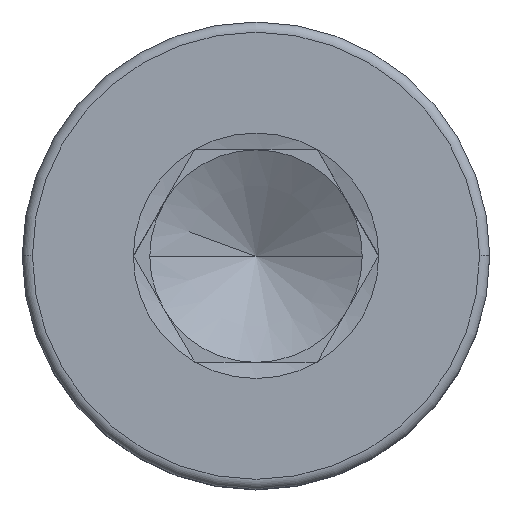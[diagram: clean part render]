
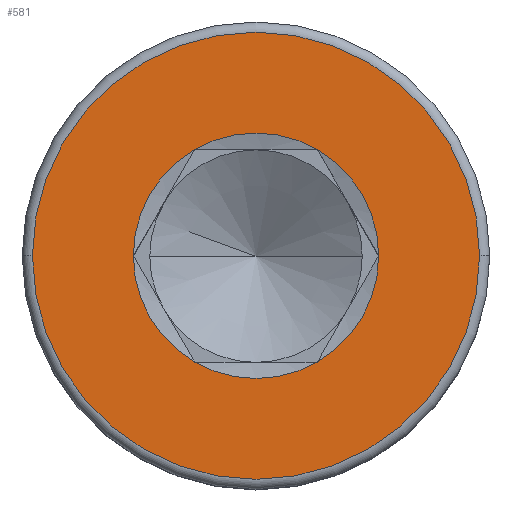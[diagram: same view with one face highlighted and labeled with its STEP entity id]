
A CAD part, top view. The second image highlights one B-rep face of the part: STEP entity #581.
In plain terms, the highlighted planar face has unit normal (0, 0, 1).
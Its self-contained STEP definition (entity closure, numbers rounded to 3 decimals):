
#15 = DIRECTION ( 'NONE',  ( 1., 0., 0. ) ) ;
#37 = CIRCLE ( 'NONE', #104, 1.443 ) ;
#44 = CARTESIAN_POINT ( 'NONE',  ( 1.443, 0., 3. ) ) ;
#51 = CARTESIAN_POINT ( 'NONE',  ( 2.63, 0., 3. ) ) ;
#80 = CARTESIAN_POINT ( 'NONE',  ( 0., 0., 3. ) ) ;
#83 = EDGE_CURVE ( 'NONE', #512, #551, #37, .T. ) ;
#90 = DIRECTION ( 'NONE',  ( 0., 0., 1. ) ) ;
#104 = AXIS2_PLACEMENT_3D ( 'NONE', #80, #346, #928 ) ;
#120 = EDGE_CURVE ( 'NONE', #551, #217, #895, .T. ) ;
#193 = FACE_OUTER_BOUND ( 'NONE', #1737, .T. ) ;
#217 = VERTEX_POINT ( 'NONE', #1849 ) ;
#248 = ORIENTED_EDGE ( 'NONE', *, *, #1256, .T. ) ;
#260 = CARTESIAN_POINT ( 'NONE',  ( 0., 0., 3. ) ) ;
#261 = AXIS2_PLACEMENT_3D ( 'NONE', #1369, #1359, #648 ) ;
#294 = AXIS2_PLACEMENT_3D ( 'NONE', #1447, #587, #15 ) ;
#346 = DIRECTION ( 'NONE',  ( 0., 0., 1. ) ) ;
#413 = AXIS2_PLACEMENT_3D ( 'NONE', #1141, #1714, #950 ) ;
#434 = ORIENTED_EDGE ( 'NONE', *, *, #120, .F. ) ;
#450 = DIRECTION ( 'NONE',  ( 1., 0., 0. ) ) ;
#475 = CIRCLE ( 'NONE', #813, 2.63 ) ;
#496 = VERTEX_POINT ( 'NONE', #1069 ) ;
#499 = FACE_BOUND ( 'NONE', #1346, .T. ) ;
#512 = VERTEX_POINT ( 'NONE', #1458 ) ;
#518 = ORIENTED_EDGE ( 'NONE', *, *, #1493, .T. ) ;
#530 = DIRECTION ( 'NONE',  ( 1., 0., 0. ) ) ;
#551 = VERTEX_POINT ( 'NONE', #1746 ) ;
#552 = DIRECTION ( 'NONE',  ( 1., 0., 0. ) ) ;
#581 = ADVANCED_FACE ( 'NONE', ( #193, #499 ), #776, .T. ) ;
#587 = DIRECTION ( 'NONE',  ( 0., 0., 1. ) ) ;
#626 = ORIENTED_EDGE ( 'NONE', *, *, #83, .F. ) ;
#636 = DIRECTION ( 'NONE',  ( 1., 0., 0. ) ) ;
#648 = DIRECTION ( 'NONE',  ( 1., 0., 0. ) ) ;
#649 = AXIS2_PLACEMENT_3D ( 'NONE', #959, #672, #530 ) ;
#672 = DIRECTION ( 'NONE',  ( 0., 0., 1. ) ) ;
#697 = CIRCLE ( 'NONE', #1519, 2.63 ) ;
#700 = VERTEX_POINT ( 'NONE', #51 ) ;
#732 = DIRECTION ( 'NONE',  ( 0., 0., 1. ) ) ;
#776 = PLANE ( 'NONE',  #261 ) ;
#813 = AXIS2_PLACEMENT_3D ( 'NONE', #1620, #1365, #636 ) ;
#842 = CIRCLE ( 'NONE', #294, 1.443 ) ;
#871 = CARTESIAN_POINT ( 'NONE',  ( -0.722, -1.25, 3. ) ) ;
#895 = CIRCLE ( 'NONE', #649, 1.443 ) ;
#902 = AXIS2_PLACEMENT_3D ( 'NONE', #260, #90, #552 ) ;
#924 = ORIENTED_EDGE ( 'NONE', *, *, #1078, .F. ) ;
#928 = DIRECTION ( 'NONE',  ( 1., 0., 0. ) ) ;
#940 = ORIENTED_EDGE ( 'NONE', *, *, #1002, .F. ) ;
#950 = DIRECTION ( 'NONE',  ( 1., 0., 0. ) ) ;
#959 = CARTESIAN_POINT ( 'NONE',  ( 0., 0., 3. ) ) ;
#972 = EDGE_CURVE ( 'NONE', #1070, #1654, #1424, .T. ) ;
#1002 = EDGE_CURVE ( 'NONE', #217, #1070, #1750, .T. ) ;
#1013 = CARTESIAN_POINT ( 'NONE',  ( 0., 0., 3. ) ) ;
#1019 = CARTESIAN_POINT ( 'NONE',  ( 0., 0., 3. ) ) ;
#1069 = CARTESIAN_POINT ( 'NONE',  ( -2.63, 0., 3. ) ) ;
#1070 = VERTEX_POINT ( 'NONE', #871 ) ;
#1071 = CARTESIAN_POINT ( 'NONE',  ( 0.722, -1.25, 3. ) ) ;
#1078 = EDGE_CURVE ( 'NONE', #1654, #1181, #842, .T. ) ;
#1091 = CIRCLE ( 'NONE', #1427, 1.443 ) ;
#1112 = EDGE_CURVE ( 'NONE', #1181, #512, #1091, .T. ) ;
#1113 = ORIENTED_EDGE ( 'NONE', *, *, #972, .F. ) ;
#1141 = CARTESIAN_POINT ( 'NONE',  ( 0., 0., 3. ) ) ;
#1181 = VERTEX_POINT ( 'NONE', #44 ) ;
#1256 = EDGE_CURVE ( 'NONE', #496, #700, #475, .T. ) ;
#1346 = EDGE_LOOP ( 'NONE', ( #1348, #924, #1113, #940, #434, #626 ) ) ;
#1348 = ORIENTED_EDGE ( 'NONE', *, *, #1112, .F. ) ;
#1359 = DIRECTION ( 'NONE',  ( 0., 0., 1. ) ) ;
#1365 = DIRECTION ( 'NONE',  ( 0., 0., 1. ) ) ;
#1369 = CARTESIAN_POINT ( 'NONE',  ( 0., 0., 3. ) ) ;
#1424 = CIRCLE ( 'NONE', #902, 1.443 ) ;
#1427 = AXIS2_PLACEMENT_3D ( 'NONE', #1013, #1754, #450 ) ;
#1444 = DIRECTION ( 'NONE',  ( 1., 0., 0. ) ) ;
#1447 = CARTESIAN_POINT ( 'NONE',  ( 0., 0., 3. ) ) ;
#1458 = CARTESIAN_POINT ( 'NONE',  ( 0.722, 1.25, 3. ) ) ;
#1493 = EDGE_CURVE ( 'NONE', #700, #496, #697, .T. ) ;
#1519 = AXIS2_PLACEMENT_3D ( 'NONE', #1019, #732, #1444 ) ;
#1620 = CARTESIAN_POINT ( 'NONE',  ( 0., 0., 3. ) ) ;
#1654 = VERTEX_POINT ( 'NONE', #1071 ) ;
#1714 = DIRECTION ( 'NONE',  ( 0., 0., 1. ) ) ;
#1737 = EDGE_LOOP ( 'NONE', ( #518, #248 ) ) ;
#1746 = CARTESIAN_POINT ( 'NONE',  ( -0.722, 1.25, 3. ) ) ;
#1750 = CIRCLE ( 'NONE', #413, 1.443 ) ;
#1754 = DIRECTION ( 'NONE',  ( 0., 0., 1. ) ) ;
#1849 = CARTESIAN_POINT ( 'NONE',  ( -1.443, 0., 3. ) ) ;
